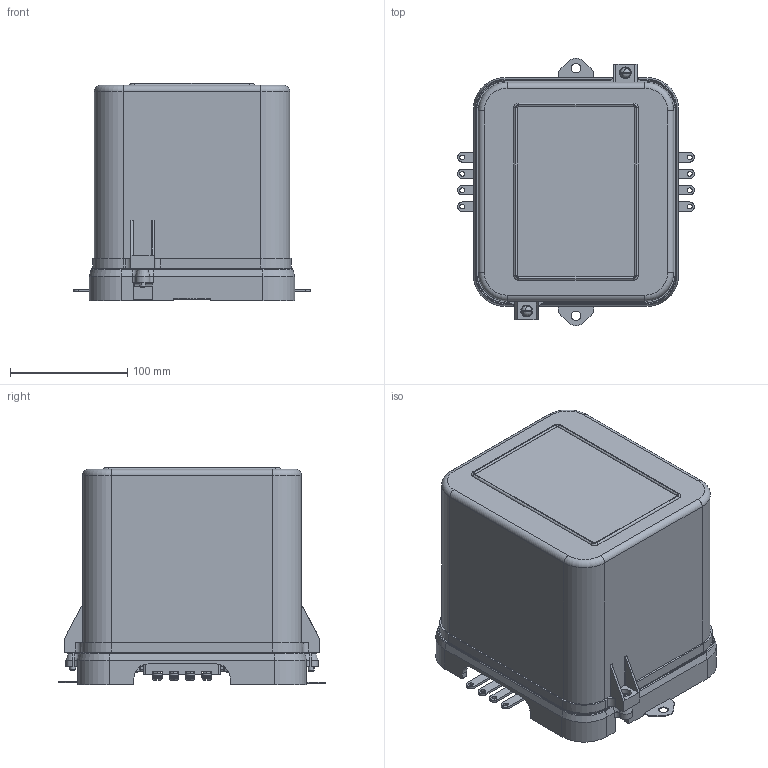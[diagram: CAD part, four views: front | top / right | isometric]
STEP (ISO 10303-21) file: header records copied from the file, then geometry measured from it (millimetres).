
FILE_DESCRIPTION(('STEP AP214'), '1');
FILE_NAME('ÄÇÒ-11 ï.ï.', '', ('UNSPECIFIED'), ('UNSPECIFIED'), 'ASCON STEP Converter 1.3', 'ASCON Math Kernel', '');
FILE_SCHEMA(('AUTOMOTIVE_DESIGN { 1 0 10303 214 3 1 1}'));
Length unit declared in the file: millimetre
Bounding box: 202 x 227.95 x 185 mm (x, y, z)
Volume: 620036.1 mm3; surface area: 458511.1 mm2
Topology: 3 solids, 4 shells, 2502 faces, 6233 edges, 4025 vertices
Faces by surface type: plane 1399, cylinder 836, torus 103, bspline 84, cone 70, sphere 10
Full cylindrical faces by diameter (mm): 3.242 x13, 4 x27, 4.1 x12, 4.3 x10, 4.5 x15, 5 x3, 5.5 x5, 6 x4, 6.5 x1, 7 x12, 8 x24, 8.5 x2, 10 x4
Entity records: 107472 total; most frequent: CARTESIAN_POINT 27865, DIRECTION 12285, ORIENTED_EDGE 12050, EDGE_CURVE 6025, AXIS2_PLACEMENT_3D 4382, VERTEX_POINT 4025, LINE 3521, VECTOR 3521
